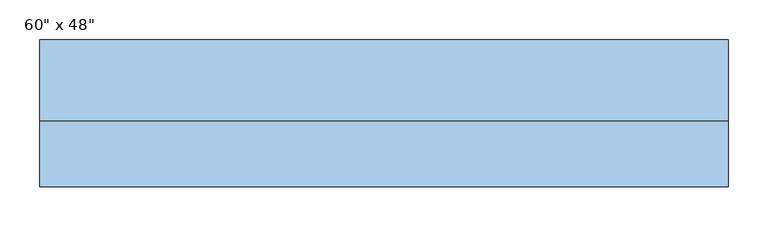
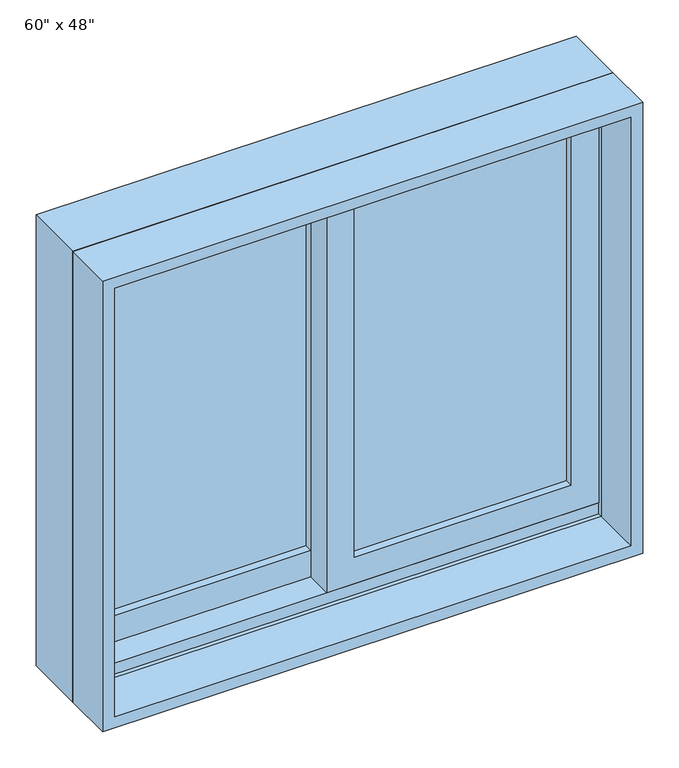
"""IFC4 building model written with IfcOpenShell, lengths in millimetres: window geometry."""

from ifc_helpers import new_model, si_unit, frame, origin, place, context, project, spatial, polyline, outline, extrude, faceted_brep, source, transform, mapped, element, save


def window_1e8c2bce(model_context):
    return source(origin(), model_context, "Body", "SolidModel", [
        extrude(outline(polyline([(933.45, -412.75), (933.45, 22.225), (1657.35, 22.225), (1657.35, -412.75), (933.45, -412.75)]), holes=[polyline([(1612.9, -22.225), (996.95, -22.225), (996.95, -368.3), (1612.9, -368.3), (1612.9, -22.225)])]), frame((0.0, 46.99, 0.0), z_axis=(0.0, 1.0, 0.0), x_axis=(0.0, 0.0, 1.0)), (0.0, 0.0, 1.0), 44.45),
        extrude(outline(polyline([(952.5, 412.75), (1657.35, 412.75), (1657.35, -22.225), (952.5, -22.225), (952.5, 412.75)]), holes=[polyline([(996.95, 22.225), (1612.9, 22.225), (1612.9, 368.3), (996.95, 368.3), (996.95, 22.225)])]), frame((0.0, 2.54, 0.0), z_axis=(0.0, 1.0, 0.0), x_axis=(0.0, 0.0, 1.0)), (0.0, 0.0, 1.0), 44.45),
        faceted_brep([(-431.8, -3.81, 914.4), (-431.8, 97.79, 914.4), (431.8, 97.79, 914.4), (431.8, -3.81, 914.4), (-390.8778905, 97.79, 1635.4778905), (-390.8778905, 91.44, 1635.4778905), (-390.8778905, 91.44, 933.45), (-390.8778905, 97.79, 933.45), (390.8778905, 91.44, 1635.4778905), (390.8778905, 91.44, 933.45), (412.75, 91.44, 933.45), (412.75, 91.44, 1657.35), (-412.75, 91.44, 1657.35), (-412.75, 91.44, 933.45), (-412.75, -3.81, 1657.35), (-412.75, -3.81, 933.45), (-412.75, 2.54, 933.45), (-412.75, 2.54, 952.5), (-412.75, 46.99, 952.5), (-412.75, 46.99, 933.45), (431.8, -3.81, 1676.4), (-431.8, -3.81, 1676.4), (412.75, -3.81, 1657.35), (412.75, -3.81, 933.45), (-431.8, 97.79, 1676.4), (431.8, 97.79, 1676.4), (390.8778905, 97.79, 933.45), (390.8778905, 97.79, 1635.4778905), (412.75, 46.99, 933.45), (412.75, 46.99, 952.5), (412.75, 2.54, 952.5), (412.75, 2.54, 933.45)], [[[0, 1, 2, 3]], [[4, 5, 6, 7]], [[5, 8, 9, 10, 11, 12, 13, 6]], [[12, 14, 15, 16, 17, 18, 19, 13]], [[0, 3, 20, 21], [22, 23, 15, 14]], [[24, 1, 0, 21]], [[2, 1, 24, 25], [4, 7, 26, 27]], [[5, 4, 27, 8]], [[12, 11, 22, 14]], [[21, 20, 25, 24]], [[8, 27, 26, 9]], [[22, 11, 10, 28, 29, 30, 31, 23]], [[20, 3, 2, 25]], [[26, 7, 6, 13, 19, 28, 10, 9]], [[28, 19, 18, 29]], [[29, 18, 17, 30]], [[30, 17, 16, 31]], [[15, 23, 31, 16]]]),
        extrude(outline(polyline([(1676.4, -431.8), (914.4, -431.8), (914.4, 431.8), (1676.4, 431.8), (1676.4, -431.8)]), holes=[polyline([(1657.35, 412.75), (933.45, 412.75), (933.45, -412.75), (1657.35, -412.75), (1657.35, 412.75)])]), frame((0.0, -86.36, 0.0), z_axis=(0.0, 1.0, 0.0), x_axis=(0.0, 0.0, 1.0)), (0.0, 0.0, 1.0), 82.55),
        extrude(outline(polyline([(368.3, 34.29), (368.3, 27.94), (22.225, 27.94), (22.225, 34.29), (368.3, 34.29)])), frame((0.0, 0.0, 996.95), z_axis=(0.0, 0.0, 1.0), x_axis=(1.0, 0.0, 0.0)), (0.0, 0.0, 1.0), 615.95),
        extrude(outline(polyline([(368.3, 21.59), (368.3, 15.24), (22.225, 15.24), (22.225, 21.59), (368.3, 21.59)])), frame((0.0, 0.0, 996.95), z_axis=(0.0, 0.0, 1.0), x_axis=(1.0, 0.0, 0.0)), (0.0, 0.0, 1.0), 615.95),
        extrude(outline(polyline([(-22.225, 78.74), (-22.225, 72.39), (-368.3, 72.39), (-368.3, 78.74), (-22.225, 78.74)])), frame((0.0, 0.0, 996.95), z_axis=(0.0, 0.0, 1.0), x_axis=(1.0, 0.0, 0.0)), (0.0, 0.0, 1.0), 615.95),
        extrude(outline(polyline([(-22.225, 66.04), (-22.225, 59.69), (-368.3, 59.69), (-368.3, 66.04), (-22.225, 66.04)])), frame((0.0, 0.0, 996.95), z_axis=(0.0, 0.0, 1.0), x_axis=(1.0, 0.0, 0.0)), (0.0, 0.0, 1.0), 615.95),
    ])


if __name__ == "__main__":
    model = new_model("IFC4")
    model_context = context("Model", 3, world=origin())
    ifc_project = project(units=[si_unit("LENGTHUNIT", "METRE", prefix="MILLI")], contexts=[model_context])
    site = spatial("IfcSite", under=ifc_project)
    building = spatial("IfcBuilding", under=site)
    placement = place(None, origin())
    window_shape = window_1e8c2bce(model_context)
    element("IfcWindow", 1, ObjectType="Planitar-Sliding-Double : 60\" x 48\"", at=placement, inside=building, context=model_context, shape_type="MappedRepresentation", body=[
        mapped(window_shape, transform((0.0, 0.0, 0.0), x_axis=(1.0, 0.0, 0.0), y_axis=(0.0, 1.0, 0.0), z_axis=(0.0, 0.0, 1.0))),
    ])
    save(model, "model.ifc")
